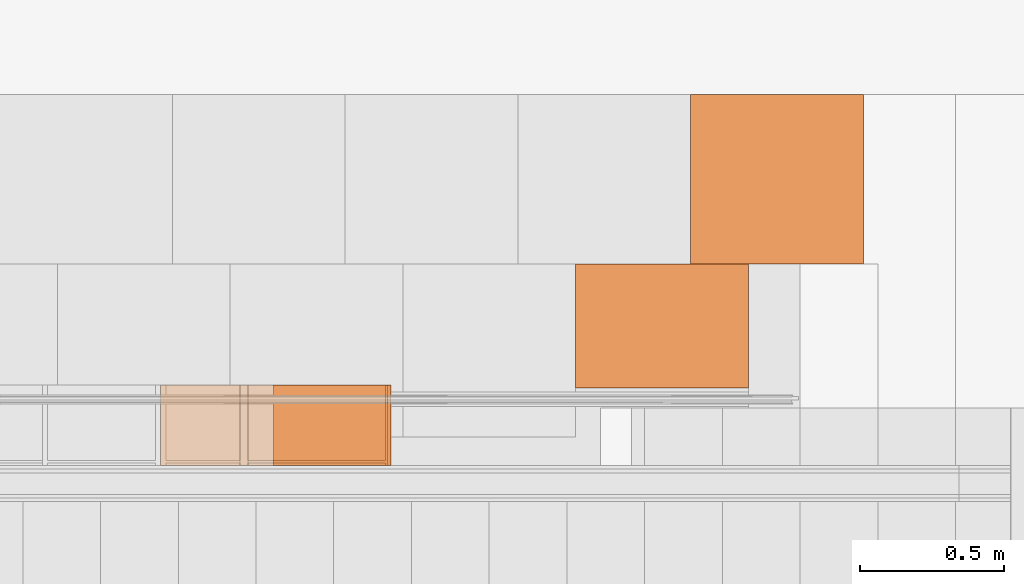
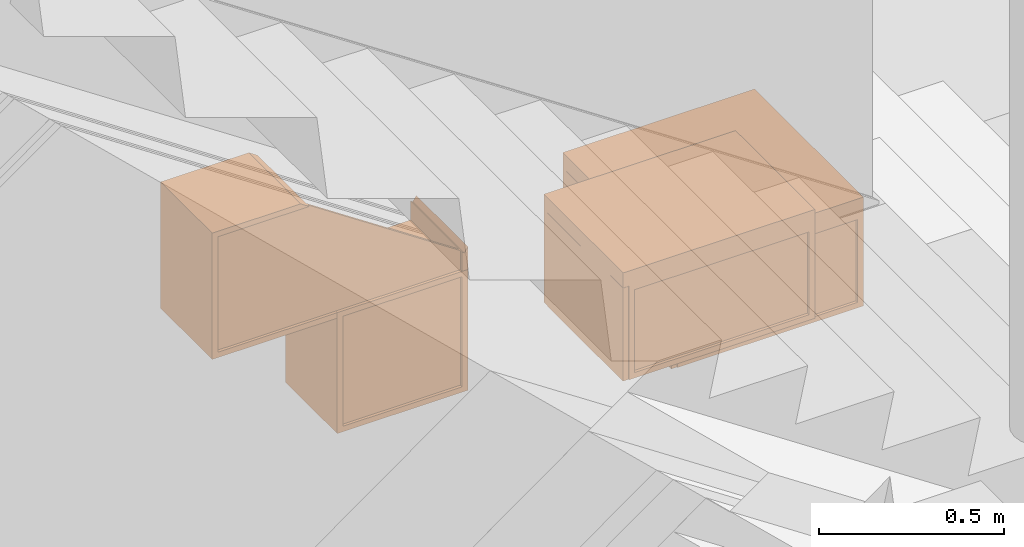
# One storey, part 163 of 165: 4 proxies.
"""IFC2X3 building model written with IfcOpenShell, lengths in millimetres."""

from ifc_helpers import new_model, entity, si_unit, converted_unit, derived_unit, money_unit, direction, frame, origin_with_axes, place, context, subcontext, project, spatial, faceted_brep, type_object, element, save


model = new_model("IFC2X3")

# Units and contexts
model_context = context("Model", 3, precision=0.01, world=origin_with_axes(), true_north=direction((0.0, 1.0)))
body_context = subcontext(model_context, "Body", "Model", "MODEL_VIEW")
ifc_project = project(units=[si_unit("LENGTHUNIT", "METRE", prefix="MILLI"), si_unit("AREAUNIT", "SQUARE_METRE"), si_unit("VOLUMEUNIT", "CUBIC_METRE"), converted_unit("PLANEANGLEUNIT", "DEGREE", entity("IfcPlaneAngleMeasure", 0.0174532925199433), si_unit("PLANEANGLEUNIT", "RADIAN"), dimensions=[0, 0, 0, 0, 0, 0, 0]), money_unit("EUR"), converted_unit("TIMEUNIT", "Year", entity("IfcTimeMeasure", 31556926.0), si_unit("TIMEUNIT", "SECOND"), dimensions=[0, 0, 1, 0, 0, 0, 0]), si_unit("MASSUNIT", "GRAM", prefix="KILO"), si_unit("THERMODYNAMICTEMPERATUREUNIT", "DEGREE_CELSIUS"), si_unit("LUMINOUSINTENSITYUNIT", "LUMEN"), si_unit("ENERGYUNIT", "JOULE", prefix="MEGA"), derived_unit("THERMALCONDUCTANCEUNIT", [(si_unit("POWERUNIT", "WATT"), 1), (si_unit("LENGTHUNIT", "METRE"), -1), (si_unit("THERMODYNAMICTEMPERATUREUNIT", "KELVIN"), -1)]), derived_unit("SPECIFICHEATCAPACITYUNIT", [(si_unit("ENERGYUNIT", "JOULE"), 1), (si_unit("MASSUNIT", "GRAM", prefix="KILO"), -1), (si_unit("THERMODYNAMICTEMPERATUREUNIT", "KELVIN"), -1)]), derived_unit("MASSDENSITYUNIT", [(si_unit("MASSUNIT", "GRAM", prefix="KILO"), 1), (si_unit("VOLUMEUNIT", "CUBIC_METRE"), -1)])], contexts=[model_context])

# Site, building, storey
site_placement = place(None, origin_with_axes())
site = spatial("IfcSite", under=ifc_project, at=site_placement, Name="Site", CompositionType="ELEMENT")
building_placement = place(site_placement, origin_with_axes())
building = spatial("IfcBuilding", under=site, at=building_placement, Name="Naam gebouw", CompositionType="ELEMENT")
storey_placement = place(building_placement, origin_with_axes())
storey = spatial("IfcBuildingStorey", under=building, at=storey_placement, Name="Begane grond", CompositionType="ELEMENT", Elevation=0.0)

# Proxies
building_element_proxy_type = type_object("IfcBuildingElementProxyType", Name="Onderkast recht 26", PredefinedType="NOTDEFINED")
proxy_1_placement = place(storey_placement, frame((17600.00001687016, 6430.000292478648, 0.0), z_axis=(0.0, 0.0, 1.0), x_axis=(-1.0, 0.0, 0.0)))
element("IfcBuildingElementProxy", 1, at=proxy_1_placement, inside=storey, type_object=building_element_proxy_type, Name="_Leeg", context=body_context, shape_type="Brep", body=[
    faceted_brep([(0.0, -590.0, 310.0), (0.0, -590.0, 360.0), (-600.0, -590.0, 360.0), (-600.0, -590.0, 310.0), (0.0, 0.0, 310.0), (0.0, 0.0, 360.0), (-600.0, 0.0, 360.0), (-600.0, 0.0, 310.0)], [[[0, 1, 2, 3]], [[4, 5, 1, 0]], [[1, 5, 6, 2]], [[3, 2, 6, 7]], [[0, 3, 7, 4]], [[7, 6, 5, 4]]]),
    faceted_brep([(-577.0, -572.0, 23.0), (-577.0, -18.00000000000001, 23.0), (-40.99999999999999, -18.00000000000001, 23.0), (-40.99999999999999, -572.0, 23.0), (-577.0, -572.0, 33.0), (-577.0, -18.00000000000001, 33.0), (-40.99999999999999, -18.00000000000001, 33.0), (-40.99999999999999, -572.0, 33.0)], [[[0, 1, 2, 3]], [[0, 4, 5, 1]], [[1, 5, 6, 2]], [[2, 6, 7, 3]], [[3, 7, 4, 0]], [[7, 6, 5, 4]]]),
    faceted_brep([(-61.0, -572.0, 33.0), (-61.0, -18.00000000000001, 33.0), (-40.99999999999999, -18.00000000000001, 33.0), (-40.99999999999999, -572.0, 33.0), (-61.0, -572.0, 286.9999999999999), (-61.0, -18.00000000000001, 286.9999999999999), (-40.99999999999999, -18.00000000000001, 286.9999999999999), (-40.99999999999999, -572.0, 286.9999999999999)], [[[0, 1, 2, 3]], [[0, 4, 5, 1]], [[1, 5, 6, 2]], [[2, 6, 7, 3]], [[3, 7, 4, 0]], [[7, 6, 5, 4]]]),
    faceted_brep([(-577.0, -572.0, 33.0), (-577.0, -18.00000000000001, 33.0), (-556.9999999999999, -18.00000000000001, 33.0), (-556.9999999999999, -572.0, 33.0), (-577.0, -572.0, 286.9999999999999), (-577.0, -18.00000000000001, 286.9999999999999), (-556.9999999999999, -18.00000000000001, 286.9999999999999), (-556.9999999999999, -572.0, 286.9999999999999)], [[[0, 1, 2, 3]], [[0, 4, 5, 1]], [[1, 5, 6, 2]], [[2, 6, 7, 3]], [[3, 7, 4, 0]], [[7, 6, 5, 4]]]),
    faceted_brep([(-556.9999999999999, -33.00000000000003, 33.0), (-556.9999999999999, -23.00000000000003, 33.0), (-61.0, -23.00000000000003, 33.0), (-61.0, -33.00000000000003, 33.0), (-556.9999999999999, -33.00000000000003, 286.9999999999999), (-556.9999999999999, -23.00000000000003, 286.9999999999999), (-61.0, -23.00000000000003, 286.9999999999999), (-61.0, -33.00000000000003, 286.9999999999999)], [[[0, 1, 2, 3]], [[0, 4, 5, 1]], [[1, 5, 6, 2]], [[2, 6, 7, 3]], [[3, 7, 4, 0]], [[7, 6, 5, 4]]]),
    faceted_brep([(-599.0, -590.0, 1.000000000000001), (-1.000000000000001, -590.0, 1.000000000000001), (-1.000000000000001, -590.0, 309.0), (-599.0, -590.0, 309.0), (-328.190778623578, -590.0, 240.26060429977), (-325.9807621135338, -590.0, 244.9999999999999), (-322.9813332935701, -590.0, 249.2836282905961), (-319.2836282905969, -590.0, 252.9813332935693), (-315.0000000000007, -590.0, 255.9807621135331), (-310.2606042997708, -590.0, 258.1907786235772), (-305.2094453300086, -590.0, 259.5442325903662), (-300.0000000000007, -590.0, 260.0), (-294.7905546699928, -590.0, 259.5442325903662), (-289.7393957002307, -590.0, 258.1907786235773), (-285.0000000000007, -590.0, 255.9807621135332), (-280.7163717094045, -590.0, 252.9813332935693), (-277.0186667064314, -590.0, 249.2836282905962), (-274.0192378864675, -590.0, 245.0), (-271.8092213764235, -590.0, 240.2606042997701), (-270.4557674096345, -590.0, 235.2094453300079), (-270.0000000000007, -590.0, 230.0), (-270.4557674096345, -590.0, 224.7905546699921), (-271.8092213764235, -590.0, 219.7393957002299), (-274.0192378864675, -590.0, 215.0), (-277.0186667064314, -590.0, 210.7163717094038), (-280.7163717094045, -590.0, 207.0186667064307), (-285.0000000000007, -590.0, 204.0192378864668), (-289.7393957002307, -590.0, 201.8092213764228), (-294.7905546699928, -590.0, 200.4557674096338), (-300.0000000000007, -590.0, 200.0), (-305.2094453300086, -590.0, 200.4557674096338), (-310.2606042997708, -590.0, 201.8092213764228), (-315.0000000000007, -590.0, 204.0192378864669), (-319.2836282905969, -590.0, 207.0186667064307), (-322.9813332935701, -590.0, 210.7163717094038), (-325.9807621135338, -590.0, 215.0), (-328.190778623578, -590.0, 219.7393957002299), (-329.5442325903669, -590.0, 224.7905546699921), (-330.0000000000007, -590.0, 230.0), (-329.5442325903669, -590.0, 235.2094453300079), (-599.0, -572.0, 1.000000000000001), (-1.000000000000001, -572.0, 1.000000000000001), (-1.000000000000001, -572.0, 309.0), (-599.0, -572.0, 309.0), (-325.9807621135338, -572.0, 244.9999999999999), (-328.190778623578, -572.0, 240.26060429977), (-322.9813332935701, -572.0, 249.2836282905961), (-319.2836282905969, -572.0, 252.9813332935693), (-315.0000000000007, -572.0, 255.9807621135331), (-310.2606042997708, -572.0, 258.1907786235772), (-305.2094453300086, -572.0, 259.5442325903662), (-300.0000000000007, -572.0, 260.0), (-294.7905546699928, -572.0, 259.5442325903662), (-289.7393957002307, -572.0, 258.1907786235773), (-285.0000000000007, -572.0, 255.9807621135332), (-280.7163717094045, -572.0, 252.9813332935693), (-277.0186667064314, -572.0, 249.2836282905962), (-274.0192378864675, -572.0, 245.0), (-271.8092213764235, -572.0, 240.2606042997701), (-270.4557674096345, -572.0, 235.2094453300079), (-270.0000000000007, -572.0, 230.0), (-270.4557674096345, -572.0, 224.7905546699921), (-271.8092213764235, -572.0, 219.7393957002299), (-274.0192378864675, -572.0, 215.0), (-277.0186667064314, -572.0, 210.7163717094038), (-280.7163717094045, -572.0, 207.0186667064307), (-285.0000000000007, -572.0, 204.0192378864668), (-289.7393957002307, -572.0, 201.8092213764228), (-294.7905546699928, -572.0, 200.4557674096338), (-300.0000000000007, -572.0, 200.0), (-305.2094453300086, -572.0, 200.4557674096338), (-310.2606042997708, -572.0, 201.8092213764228), (-315.0000000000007, -572.0, 204.0192378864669), (-319.2836282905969, -572.0, 207.0186667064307), (-322.9813332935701, -572.0, 210.7163717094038), (-325.9807621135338, -572.0, 215.0), (-328.190778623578, -572.0, 219.7393957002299), (-329.5442325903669, -572.0, 224.7905546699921), (-330.0000000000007, -572.0, 230.0), (-329.5442325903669, -572.0, 235.2094453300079)], [[[0, 1, 2, 3], [4, 5, 6, 7, 8, 9, 10, 11, 12, 13, 14, 15, 16, 17, 18, 19, 20, 21, 22, 23, 24, 25, 26, 27, 28, 29, 30, 31, 32, 33, 34, 35, 36, 37, 38, 39]], [[40, 41, 1, 0]], [[41, 42, 2, 1]], [[42, 43, 3, 2]], [[43, 40, 0, 3]], [[44, 5, 4, 45]], [[46, 6, 5, 44]], [[47, 7, 6, 46]], [[48, 8, 7, 47]], [[49, 9, 8, 48]], [[50, 10, 9, 49]], [[51, 11, 10, 50]], [[52, 12, 11, 51]], [[53, 13, 12, 52]], [[54, 14, 13, 53]], [[55, 15, 14, 54]], [[56, 16, 15, 55]], [[57, 17, 16, 56]], [[58, 18, 17, 57]], [[59, 19, 18, 58]], [[60, 20, 19, 59]], [[61, 21, 20, 60]], [[62, 22, 21, 61]], [[63, 23, 22, 62]], [[64, 24, 23, 63]], [[65, 25, 24, 64]], [[66, 26, 25, 65]], [[67, 27, 26, 66]], [[68, 28, 27, 67]], [[69, 29, 28, 68]], [[70, 30, 29, 69]], [[71, 31, 30, 70]], [[72, 32, 31, 71]], [[73, 33, 32, 72]], [[74, 34, 33, 73]], [[75, 35, 34, 74]], [[76, 36, 35, 75]], [[77, 37, 36, 76]], [[78, 38, 37, 77]], [[79, 39, 38, 78]], [[45, 4, 39, 79]], [[42, 41, 40, 43], [76, 75, 74, 73, 72, 71, 70, 69, 68, 67, 66, 65, 64, 63, 62, 61, 60, 59, 58, 57, 56, 55, 54, 53, 52, 51, 50, 49, 48, 47, 46, 44, 45, 79, 78, 77]]]),
    faceted_brep([(-18.0, -1.0, 1.0), (0.0, -1.0, 1.000000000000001), (0.0, -571.0, 1.000000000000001), (-18.0, -571.0, 1.0), (-18.00000000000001, -1.0, 309.0), (0.0, -1.0, 309.0), (0.0, -571.0, 309.0), (-18.00000000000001, -571.0, 309.0)], [[[0, 1, 2, 3]], [[4, 5, 1, 0]], [[1, 5, 6, 2]], [[3, 2, 6, 7]], [[0, 3, 7, 4]], [[7, 6, 5, 4]]]),
    faceted_brep([(-36.0, -572.0, 0.0), (-36.0, -572.0, 18.0), (-582.0, -572.0, 18.0), (-582.0, -572.0, 0.0), (-36.0, 0.0, 0.0), (-36.0, 0.0, 18.0), (-582.0, 0.0, 18.0), (-582.0, 0.0, 0.0)], [[[0, 1, 2, 3]], [[4, 5, 1, 0]], [[1, 5, 6, 2]], [[3, 2, 6, 7]], [[0, 3, 7, 4]], [[7, 6, 5, 4]]]),
    faceted_brep([(-36.0, -572.0, 292.0), (-582.0, -572.0, 292.0), (-582.0, -512.0, 292.0), (-36.0, -512.0, 292.0), (-36.0, -572.0, 310.0), (-582.0, -572.0, 310.0), (-582.0, -512.0, 310.0), (-36.0, -512.0, 310.0)], [[[0, 1, 2, 3]], [[4, 5, 1, 0]], [[1, 5, 6, 2]], [[3, 2, 6, 7]], [[0, 3, 7, 4]], [[7, 6, 5, 4]]]),
    faceted_brep([(-582.0, 0.0, 292.0), (-36.0, 0.0, 292.0), (-36.0, -60.0, 292.0), (-582.0, -60.0, 292.0), (-582.0, 0.0, 310.0), (-36.0, 0.0, 310.0), (-36.0, -60.0, 310.0), (-582.0, -60.0, 310.0)], [[[0, 1, 2, 3]], [[4, 5, 1, 0]], [[1, 5, 6, 2]], [[3, 2, 6, 7]], [[0, 3, 7, 4]], [[7, 6, 5, 4]]]),
    faceted_brep([(-18.0, 0.0, 0.0), (-18.0, 0.0, 310.0), (-18.0, -572.0, 310.0), (-18.0, -572.0, 0.0), (-36.0, 0.0, 0.0), (-36.0, 0.0, 310.0), (-36.0, -572.0, 310.0), (-36.0, -572.0, 0.0)], [[[0, 1, 2, 3]], [[4, 5, 1, 0]], [[1, 5, 6, 2]], [[3, 2, 6, 7]], [[0, 3, 7, 4]], [[7, 6, 5, 4]]]),
    faceted_brep([(-600.0, -572.0, 0.0), (-600.0, -572.0, 310.0), (-600.0, 0.0, 310.0), (-600.0, 0.0, 0.0), (-582.0, -572.0, 0.0), (-582.0, -572.0, 310.0), (-582.0, 0.0, 310.0), (-582.0, 0.0, 0.0)], [[[0, 1, 2, 3]], [[4, 5, 1, 0]], [[1, 5, 6, 2]], [[3, 2, 6, 7]], [[0, 3, 7, 4]], [[7, 6, 5, 4]]]),
    faceted_brep([(-582.0, -9.0, 18.0), (-582.0, -9.0, 292.0000000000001), (-36.00000000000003, -9.0, 292.0000000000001), (-36.00000000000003, -9.0, 18.0), (-582.0, -18.0, 18.0), (-582.0, -18.0, 292.0000000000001), (-36.00000000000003, -18.0, 292.0000000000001), (-36.00000000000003, -18.0, 18.0)], [[[0, 1, 2, 3]], [[4, 5, 1, 0]], [[1, 5, 6, 2]], [[3, 2, 6, 7]], [[0, 3, 7, 4]], [[7, 6, 5, 4]]]),
])
proxy_2_placement = place(storey_placement, frame((17200.00001687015, 6000.000239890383, 359.9999999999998), z_axis=(0.0, 0.0, 1.0), x_axis=(-1.0, 0.0, 0.0)))
element("IfcBuildingElementProxy", 2, at=proxy_2_placement, inside=storey, type_object=building_element_proxy_type, Name="_Leeg", context=body_context, shape_type="Brep", body=[
    faceted_brep([(0.0, -430.0, 310.0), (0.0, -430.0, 360.0), (-600.0, -430.0, 360.0), (-600.0, -430.0, 310.0), (0.0, 0.0, 310.0), (0.0, 0.0, 360.0), (-600.0, 0.0, 360.0), (-600.0, 0.0, 310.0)], [[[0, 1, 2, 3]], [[4, 5, 1, 0]], [[1, 5, 6, 2]], [[3, 2, 6, 7]], [[0, 3, 7, 4]], [[7, 6, 5, 4]]]),
    faceted_brep([(-577.0, -412.0, 23.0), (-577.0, -18.00000000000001, 23.0), (-40.99999999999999, -18.00000000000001, 23.0), (-40.99999999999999, -412.0, 23.0), (-577.0, -412.0, 33.0), (-577.0, -18.00000000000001, 33.0), (-40.99999999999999, -18.00000000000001, 33.0), (-40.99999999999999, -412.0, 33.0)], [[[0, 1, 2, 3]], [[0, 4, 5, 1]], [[1, 5, 6, 2]], [[2, 6, 7, 3]], [[3, 7, 4, 0]], [[7, 6, 5, 4]]]),
    faceted_brep([(-61.0, -412.0, 33.0), (-61.0, -18.00000000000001, 33.0), (-40.99999999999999, -18.00000000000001, 33.0), (-40.99999999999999, -412.0, 33.0), (-61.0, -412.0, 286.9999999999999), (-61.0, -18.00000000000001, 286.9999999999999), (-40.99999999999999, -18.00000000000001, 286.9999999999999), (-40.99999999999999, -412.0, 286.9999999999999)], [[[0, 1, 2, 3]], [[0, 4, 5, 1]], [[1, 5, 6, 2]], [[2, 6, 7, 3]], [[3, 7, 4, 0]], [[7, 6, 5, 4]]]),
    faceted_brep([(-577.0, -412.0, 33.0), (-577.0, -18.00000000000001, 33.0), (-556.9999999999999, -18.00000000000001, 33.0), (-556.9999999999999, -412.0, 33.0), (-577.0, -412.0, 286.9999999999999), (-577.0, -18.00000000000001, 286.9999999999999), (-556.9999999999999, -18.00000000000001, 286.9999999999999), (-556.9999999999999, -412.0, 286.9999999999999)], [[[0, 1, 2, 3]], [[0, 4, 5, 1]], [[1, 5, 6, 2]], [[2, 6, 7, 3]], [[3, 7, 4, 0]], [[7, 6, 5, 4]]]),
    faceted_brep([(-556.9999999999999, -33.00000000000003, 33.0), (-556.9999999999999, -23.00000000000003, 33.0), (-61.0, -23.00000000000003, 33.0), (-61.0, -33.00000000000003, 33.0), (-556.9999999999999, -33.00000000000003, 286.9999999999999), (-556.9999999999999, -23.00000000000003, 286.9999999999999), (-61.0, -23.00000000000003, 286.9999999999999), (-61.0, -33.00000000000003, 286.9999999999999)], [[[0, 1, 2, 3]], [[0, 4, 5, 1]], [[1, 5, 6, 2]], [[2, 6, 7, 3]], [[3, 7, 4, 0]], [[7, 6, 5, 4]]]),
    faceted_brep([(-599.0, -430.0, 1.000000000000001), (-1.000000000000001, -430.0, 1.000000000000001), (-1.000000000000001, -429.9999999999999, 309.0), (-599.0, -429.9999999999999, 309.0), (-328.190778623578, -430.0, 240.26060429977), (-325.9807621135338, -430.0, 244.9999999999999), (-322.9813332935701, -430.0, 249.2836282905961), (-319.2836282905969, -430.0, 252.9813332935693), (-315.0000000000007, -430.0, 255.9807621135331), (-310.2606042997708, -430.0, 258.1907786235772), (-305.2094453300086, -430.0, 259.5442325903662), (-300.0000000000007, -430.0, 260.0), (-294.7905546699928, -430.0, 259.5442325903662), (-289.7393957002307, -430.0, 258.1907786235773), (-285.0000000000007, -430.0, 255.9807621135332), (-280.7163717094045, -430.0, 252.9813332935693), (-277.0186667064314, -430.0, 249.2836282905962), (-274.0192378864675, -430.0, 245.0), (-271.8092213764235, -430.0, 240.2606042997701), (-270.4557674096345, -430.0, 235.2094453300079), (-270.0000000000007, -430.0, 230.0), (-270.4557674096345, -430.0, 224.7905546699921), (-271.8092213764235, -430.0, 219.7393957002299), (-274.0192378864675, -430.0, 215.0), (-277.0186667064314, -430.0, 210.7163717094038), (-280.7163717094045, -430.0, 207.0186667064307), (-285.0000000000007, -430.0, 204.0192378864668), (-289.7393957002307, -430.0, 201.8092213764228), (-294.7905546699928, -430.0, 200.4557674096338), (-300.0000000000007, -430.0, 200.0), (-305.2094453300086, -430.0, 200.4557674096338), (-310.2606042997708, -430.0, 201.8092213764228), (-315.0000000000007, -430.0, 204.0192378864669), (-319.2836282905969, -430.0, 207.0186667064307), (-322.9813332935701, -430.0, 210.7163717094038), (-325.9807621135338, -430.0, 215.0), (-328.190778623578, -430.0, 219.7393957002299), (-329.5442325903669, -430.0, 224.7905546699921), (-330.0000000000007, -430.0, 230.0), (-329.5442325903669, -430.0, 235.2094453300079), (-599.0, -412.0, 1.000000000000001), (-1.000000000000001, -412.0, 1.000000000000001), (-1.000000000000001, -412.0, 309.0), (-599.0, -412.0, 309.0), (-325.9807621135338, -412.0, 244.9999999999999), (-328.190778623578, -412.0, 240.26060429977), (-322.9813332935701, -412.0, 249.2836282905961), (-319.2836282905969, -412.0, 252.9813332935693), (-315.0000000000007, -412.0, 255.9807621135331), (-310.2606042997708, -412.0, 258.1907786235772), (-305.2094453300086, -412.0, 259.5442325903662), (-300.0000000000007, -412.0, 260.0), (-294.7905546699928, -412.0, 259.5442325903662), (-289.7393957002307, -412.0, 258.1907786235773), (-285.0000000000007, -412.0, 255.9807621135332), (-280.7163717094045, -412.0, 252.9813332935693), (-277.0186667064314, -412.0, 249.2836282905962), (-274.0192378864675, -412.0, 245.0), (-271.8092213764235, -412.0, 240.2606042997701), (-270.4557674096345, -412.0, 235.2094453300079), (-270.0000000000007, -412.0, 230.0), (-270.4557674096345, -412.0, 224.7905546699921), (-271.8092213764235, -412.0, 219.7393957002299), (-274.0192378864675, -412.0, 215.0), (-277.0186667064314, -412.0, 210.7163717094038), (-280.7163717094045, -412.0, 207.0186667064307), (-285.0000000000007, -412.0, 204.0192378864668), (-289.7393957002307, -412.0, 201.8092213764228), (-294.7905546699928, -412.0, 200.4557674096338), (-300.0000000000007, -412.0, 200.0), (-305.2094453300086, -412.0, 200.4557674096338), (-310.2606042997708, -412.0, 201.8092213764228), (-315.0000000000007, -412.0, 204.0192378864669), (-319.2836282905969, -412.0, 207.0186667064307), (-322.9813332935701, -412.0, 210.7163717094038), (-325.9807621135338, -412.0, 215.0), (-328.190778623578, -412.0, 219.7393957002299), (-329.5442325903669, -412.0, 224.7905546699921), (-330.0000000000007, -412.0, 230.0), (-329.5442325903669, -412.0, 235.2094453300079)], [[[0, 1, 2, 3], [4, 5, 6, 7, 8, 9, 10, 11, 12, 13, 14, 15, 16, 17, 18, 19, 20, 21, 22, 23, 24, 25, 26, 27, 28, 29, 30, 31, 32, 33, 34, 35, 36, 37, 38, 39]], [[40, 41, 1, 0]], [[41, 42, 2, 1]], [[42, 43, 3, 2]], [[43, 40, 0, 3]], [[44, 5, 4, 45]], [[46, 6, 5, 44]], [[47, 7, 6, 46]], [[48, 8, 7, 47]], [[49, 9, 8, 48]], [[50, 10, 9, 49]], [[51, 11, 10, 50]], [[52, 12, 11, 51]], [[53, 13, 12, 52]], [[54, 14, 13, 53]], [[55, 15, 14, 54]], [[56, 16, 15, 55]], [[57, 17, 16, 56]], [[58, 18, 17, 57]], [[59, 19, 18, 58]], [[60, 20, 19, 59]], [[61, 21, 20, 60]], [[62, 22, 21, 61]], [[63, 23, 22, 62]], [[64, 24, 23, 63]], [[65, 25, 24, 64]], [[66, 26, 25, 65]], [[67, 27, 26, 66]], [[68, 28, 27, 67]], [[69, 29, 28, 68]], [[70, 30, 29, 69]], [[71, 31, 30, 70]], [[72, 32, 31, 71]], [[73, 33, 32, 72]], [[74, 34, 33, 73]], [[75, 35, 34, 74]], [[76, 36, 35, 75]], [[77, 37, 36, 76]], [[78, 38, 37, 77]], [[79, 39, 38, 78]], [[45, 4, 39, 79]], [[42, 41, 40, 43], [76, 75, 74, 73, 72, 71, 70, 69, 68, 67, 66, 65, 64, 63, 62, 61, 60, 59, 58, 57, 56, 55, 54, 53, 52, 51, 50, 49, 48, 47, 46, 44, 45, 79, 78, 77]]]),
    faceted_brep([(-18.0, -1.0, 1.0), (0.0, -1.0, 1.000000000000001), (0.0, -411.0, 1.000000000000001), (-18.0, -411.0, 1.0), (-18.00000000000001, -1.0, 309.0), (0.0, -1.0, 309.0), (0.0, -411.0, 309.0), (-18.00000000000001, -411.0, 309.0)], [[[0, 1, 2, 3]], [[4, 5, 1, 0]], [[1, 5, 6, 2]], [[3, 2, 6, 7]], [[0, 3, 7, 4]], [[7, 6, 5, 4]]]),
    faceted_brep([(-36.0, -412.0, 0.0), (-36.0, -412.0, 18.0), (-582.0, -412.0, 18.0), (-582.0, -412.0, 0.0), (-36.0, 0.0, 0.0), (-36.0, 0.0, 18.0), (-582.0, 0.0, 18.0), (-582.0, 0.0, 0.0)], [[[0, 1, 2, 3]], [[4, 5, 1, 0]], [[1, 5, 6, 2]], [[3, 2, 6, 7]], [[0, 3, 7, 4]], [[7, 6, 5, 4]]]),
    faceted_brep([(-36.0, -412.0, 292.0), (-582.0, -412.0, 292.0), (-582.0, -352.0, 292.0), (-36.0, -352.0, 292.0), (-36.0, -412.0, 310.0), (-582.0, -412.0, 310.0), (-582.0, -352.0, 310.0), (-36.0, -352.0, 310.0)], [[[0, 1, 2, 3]], [[4, 5, 1, 0]], [[1, 5, 6, 2]], [[3, 2, 6, 7]], [[0, 3, 7, 4]], [[7, 6, 5, 4]]]),
    faceted_brep([(-582.0, 0.0, 292.0), (-36.0, 0.0, 292.0), (-36.0, -60.0, 292.0), (-582.0, -60.0, 292.0), (-582.0, 0.0, 310.0), (-36.0, 0.0, 310.0), (-36.0, -60.0, 310.0), (-582.0, -60.0, 310.0)], [[[0, 1, 2, 3]], [[4, 5, 1, 0]], [[1, 5, 6, 2]], [[3, 2, 6, 7]], [[0, 3, 7, 4]], [[7, 6, 5, 4]]]),
    faceted_brep([(-18.0, 0.0, 0.0), (-18.0, 0.0, 310.0), (-18.0, -412.0, 310.0), (-18.0, -412.0, 0.0), (-36.0, 0.0, 0.0), (-36.0, 0.0, 310.0), (-36.0, -412.0, 310.0), (-36.0, -412.0, 0.0)], [[[0, 1, 2, 3]], [[4, 5, 1, 0]], [[1, 5, 6, 2]], [[3, 2, 6, 7]], [[0, 3, 7, 4]], [[7, 6, 5, 4]]]),
    faceted_brep([(-600.0, -412.0, 0.0), (-600.0, -412.0, 310.0), (-600.0, 0.0, 310.0), (-600.0, 0.0, 0.0), (-582.0, -412.0, 0.0), (-582.0, -412.0, 310.0), (-582.0, 0.0, 310.0), (-582.0, 0.0, 0.0)], [[[0, 1, 2, 3]], [[4, 5, 1, 0]], [[1, 5, 6, 2]], [[3, 2, 6, 7]], [[0, 3, 7, 4]], [[7, 6, 5, 4]]]),
    faceted_brep([(-582.0, -9.0, 18.0), (-582.0, -9.0, 292.0000000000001), (-36.00000000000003, -9.0, 292.0000000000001), (-36.00000000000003, -9.0, 18.0), (-582.0, -18.0, 18.0), (-582.0, -18.0, 292.0000000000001), (-36.00000000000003, -18.0, 292.0000000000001), (-36.00000000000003, -18.0, 18.0)], [[[0, 1, 2, 3]], [[4, 5, 1, 0]], [[1, 5, 6, 2]], [[3, 2, 6, 7]], [[0, 3, 7, 4]], [[7, 6, 5, 4]]]),
])
proxy_3_placement = place(storey_placement, frame((16558.57015574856, 5729.997304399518, 719.9999999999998), z_axis=(0.0, 0.0, 1.0), x_axis=(-1.0, 0.0, 0.0)))
element("IfcBuildingElementProxy", 3, at=proxy_3_placement, inside=storey, type_object=building_element_proxy_type, Name="_Leeg", context=body_context, shape_type="Brep", body=[
    faceted_brep([(18.0, -280.0000000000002, 0.0), (390.9999999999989, -280.0000000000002, 0.0), (390.9999999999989, -280.0000000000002, 18.0), (18.0, -280.0000000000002, 18.0), (18.0, 0.0, 0.0), (390.9999999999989, 0.0, 0.0), (390.9999999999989, 0.0, 18.0), (18.0, 0.0, 18.0)], [[[0, 1, 2, 3]], [[0, 4, 5, 1]], [[1, 5, 6, 2]], [[3, 2, 6, 7]], [[4, 0, 3, 7]], [[5, 4, 7, 6]]]),
    faceted_brep([(18.0, -280.0000000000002, 382.0), (390.9999999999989, -280.0000000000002, 382.0), (390.9999999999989, -280.0000000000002, 400.0), (18.0, -280.0000000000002, 400.0), (18.0, 0.0, 382.0), (390.9999999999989, 0.0, 382.0), (390.9999999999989, 0.0, 400.0), (18.0, 0.0, 400.0)], [[[0, 1, 2, 3]], [[0, 4, 5, 1]], [[1, 5, 6, 2]], [[3, 2, 6, 7]], [[4, 0, 3, 7]], [[5, 4, 7, 6]]]),
    faceted_brep([(0.0, 0.0, 0.0), (0.0, -280.0000000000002, 0.0), (0.0, -280.0000000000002, 400.0), (0.0, 0.0, 400.0), (18.0, 0.0, 0.0), (18.0, -280.0000000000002, 0.0), (18.0, -280.0000000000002, 400.0), (18.0, 0.0, 400.0)], [[[0, 1, 2, 3]], [[0, 4, 5, 1]], [[1, 5, 6, 2]], [[3, 2, 6, 7]], [[4, 0, 3, 7]], [[5, 4, 7, 6]]]),
    faceted_brep([(408.9999999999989, -280.0000000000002, 0.0), (408.9999999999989, 0.0, 0.0), (408.9999999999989, 0.0, 400.0), (408.9999999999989, -280.0000000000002, 400.0), (390.9999999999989, -280.0000000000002, 0.0), (390.9999999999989, 0.0, 0.0), (390.9999999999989, 0.0, 400.0), (390.9999999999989, -280.0000000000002, 400.0)], [[[0, 1, 2, 3]], [[0, 4, 5, 1]], [[1, 5, 6, 2]], [[3, 2, 6, 7]], [[4, 0, 3, 7]], [[5, 4, 7, 6]]]),
    faceted_brep([(390.9999999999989, -9.0, 18.0), (18.00000000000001, -9.0, 18.0), (18.00000000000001, -9.0, 382.0000000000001), (390.9999999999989, -9.0, 382.0000000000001), (390.9999999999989, -18.0, 18.0), (18.00000000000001, -18.0, 18.0), (18.00000000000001, -18.0, 382.0000000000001), (390.9999999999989, -18.0, 382.0000000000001)], [[[0, 1, 2, 3]], [[0, 4, 5, 1]], [[1, 5, 6, 2]], [[3, 2, 6, 7]], [[4, 0, 3, 7]], [[5, 4, 7, 6]]]),
])
proxy_4_placement = place(storey_placement, frame((16558.57015574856, 5729.997304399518, 1102.0), z_axis=(0.0, 0.0, 1.0), x_axis=(-1.0, 0.0, 0.0)))
element("IfcBuildingElementProxy", 4, at=proxy_4_placement, inside=storey, type_object=building_element_proxy_type, Name="_Leeg", context=body_context, shape_type="Brep", body=[
    faceted_brep([(496.5554901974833, -17.99999999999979, 399.9999999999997), (18.00000000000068, -17.99999999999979, 80.96300653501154), (18.00000000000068, -17.99999999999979, 18.00000000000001), (782.0000000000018, -17.99999999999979, 18.00000000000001), (782.0000000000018, -17.99999999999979, 399.9999999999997), (18.00000000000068, -9.000000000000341, 80.9630064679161), (496.5554902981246, -9.000000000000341, 399.9999999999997), (18.00000000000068, -9.000000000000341, 18.00000000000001), (782.0000000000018, -9.000000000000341, 18.00000000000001), (782.0000000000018, -9.000000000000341, 399.9999999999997)], [[[0, 1, 2, 3, 4]], [[5, 1, 0, 6]], [[1, 5, 7, 2]], [[7, 8, 3, 2]], [[4, 3, 8, 9]], [[6, 0, 4, 9]], [[5, 6, 9, 8, 7]]]),
    faceted_brep([(523.5554872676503, -279.999978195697, 417.9999999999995), (496.5554872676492, -279.9999778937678, 399.9999999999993), (782.0000000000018, -280.0000000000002, 399.9999999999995), (782.0000000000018, -280.0000000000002, 417.9999999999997), (496.555490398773, 0.0001203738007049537, 400.0000000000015), (523.555490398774, 0.000120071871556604, 418.0000000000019), (782.0000000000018, 0.0, 399.9999999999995), (782.0000000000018, 0.0, 417.9999999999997)], [[[0, 1, 2, 3]], [[4, 1, 0, 5]], [[1, 4, 6, 2]], [[3, 2, 6, 7]], [[5, 0, 3, 7]], [[4, 5, 7, 6]]]),
    faceted_brep([(18.00000000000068, -279.9999725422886, 80.96300848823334), (11.09400392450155, -279.9999724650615, 76.35901110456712), (0.0, -279.9999723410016, 93.0000169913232), (0.0, -280.0000000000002, 0.0), (18.00000000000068, -280.0000000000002, 0.0), (18.00000000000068, 0.0001257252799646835, 80.96300640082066), (11.0940070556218, 0.0001258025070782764, 76.35901110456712), (3.131120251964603e-06, 0.0001259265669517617, 93.0000169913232), (0.0, 0.0, 0.0), (18.00000000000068, 0.0, 0.0)], [[[0, 1, 2, 3, 4]], [[1, 0, 5, 6]], [[7, 2, 1, 6]], [[2, 7, 8, 3]], [[3, 8, 9, 4]], [[5, 0, 4, 9]], [[6, 5, 9, 8, 7]]]),
    faceted_brep([(800.0000000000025, -280.0000000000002, 417.9999999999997), (800.0000000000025, -280.0000000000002, 0.0), (800.0000000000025, 0.0, 0.0), (800.0000000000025, 0.0, 417.9999999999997), (782.0000000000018, -280.0000000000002, 417.9999999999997), (782.0000000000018, -280.0000000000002, 0.0), (782.0000000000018, 0.0, 0.0), (782.0000000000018, 0.0, 417.9999999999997)], [[[0, 1, 2, 3]], [[4, 5, 1, 0]], [[2, 1, 5, 6]], [[3, 2, 6, 7]], [[4, 0, 3, 7]], [[7, 6, 5, 4]]]),
    faceted_brep([(18.00000000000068, -280.0000000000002, 0.0), (782.0000000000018, -280.0000000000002, 0.0), (782.0000000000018, -280.0000000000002, 18.00000000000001), (18.00000000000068, -280.0000000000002, 18.00000000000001), (18.00000000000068, 0.0, 0.0), (782.0000000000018, 0.0, 0.0), (782.0000000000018, 0.0, 18.00000000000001), (18.00000000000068, 0.0, 18.00000000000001)], [[[0, 1, 2, 3]], [[0, 4, 5, 1]], [[1, 5, 6, 2]], [[3, 2, 6, 7]], [[4, 0, 3, 7]], [[5, 4, 7, 6]]]),
])

save(model, "model.ifc")
